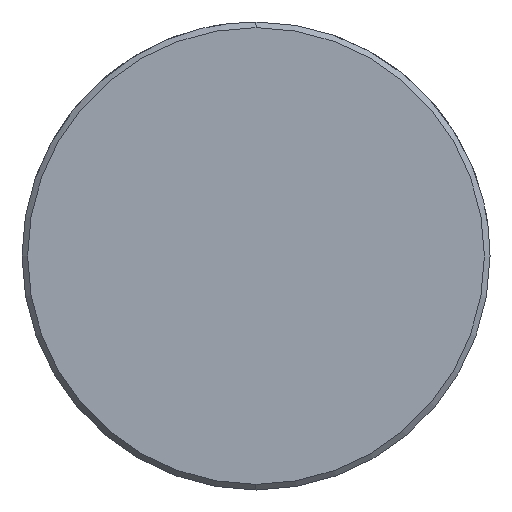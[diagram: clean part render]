
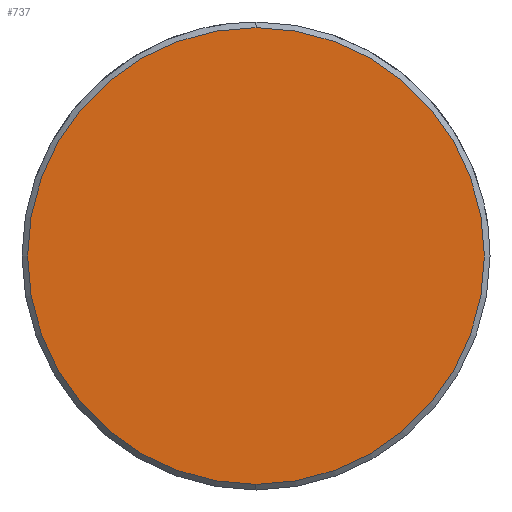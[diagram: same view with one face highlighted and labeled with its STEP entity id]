
A CAD part, left-side view. The second image highlights one B-rep face of the part: STEP entity #737.
In plain terms, the highlighted planar face has unit normal (-1, 0, 0).
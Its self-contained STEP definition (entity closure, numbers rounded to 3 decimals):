
#669=CARTESIAN_POINT('Vertex',(0.,0.,-12.2)) ;
#672=CARTESIAN_POINT('Axis2P3D Location',(0.,0.,0.)) ;
#676=CARTESIAN_POINT('Vertex',(0.,12.2,0.)) ;
#679=CARTESIAN_POINT('Axis2P3D Location',(0.,0.,0.)) ;
#683=CARTESIAN_POINT('Vertex',(0.,0.,12.2)) ;
#705=CARTESIAN_POINT('Axis2P3D Location',(0.,0.,0.)) ;
#709=CARTESIAN_POINT('Vertex',(0.,-12.2,0.)) ;
#712=CARTESIAN_POINT('Axis2P3D Location',(0.,0.,0.)) ;
#726=CARTESIAN_POINT('Axis2P3D Location',(0.,0.,0.)) ;
#673=DIRECTION('Axis2P3D Direction',(1.,0.,-0.)) ;
#680=DIRECTION('Axis2P3D Direction',(1.,0.,-0.)) ;
#706=DIRECTION('Axis2P3D Direction',(1.,0.,-0.)) ;
#713=DIRECTION('Axis2P3D Direction',(1.,0.,-0.)) ;
#727=DIRECTION('Axis2P3D Direction',(1.,0.,-0.)) ;
#728=DIRECTION('Axis2P3D XDirection',(-0.,0.,-1.)) ;
#674=AXIS2_PLACEMENT_3D('Circle Axis2P3D',#672,#673,$) ;
#681=AXIS2_PLACEMENT_3D('Circle Axis2P3D',#679,#680,$) ;
#707=AXIS2_PLACEMENT_3D('Circle Axis2P3D',#705,#706,$) ;
#714=AXIS2_PLACEMENT_3D('Circle Axis2P3D',#712,#713,$) ;
#729=AXIS2_PLACEMENT_3D('Plane Axis2P3D',#726,#727,#728) ;
#732=ORIENTED_EDGE('',*,*,#678,.F.) ;
#733=ORIENTED_EDGE('',*,*,#716,.F.) ;
#734=ORIENTED_EDGE('',*,*,#711,.F.) ;
#735=ORIENTED_EDGE('',*,*,#685,.F.) ;
#737=ADVANCED_FACE('549-22X160',(#736),#730,.F.) ;
#675=CIRCLE('generated circle',#674,12.2) ;
#682=CIRCLE('generated circle',#681,12.2) ;
#708=CIRCLE('generated circle',#707,12.2) ;
#715=CIRCLE('generated circle',#714,12.2) ;
#678=EDGE_CURVE('',#670,#677,#675,.T.) ;
#685=EDGE_CURVE('',#677,#684,#682,.T.) ;
#711=EDGE_CURVE('',#684,#710,#708,.T.) ;
#716=EDGE_CURVE('',#710,#670,#715,.T.) ;
#731=EDGE_LOOP('',(#732,#733,#734,#735)) ;
#736=FACE_OUTER_BOUND('',#731,.T.) ;
#730=PLANE('Plane',#729) ;
#670=VERTEX_POINT('',#669) ;
#677=VERTEX_POINT('',#676) ;
#684=VERTEX_POINT('',#683) ;
#710=VERTEX_POINT('',#709) ;
